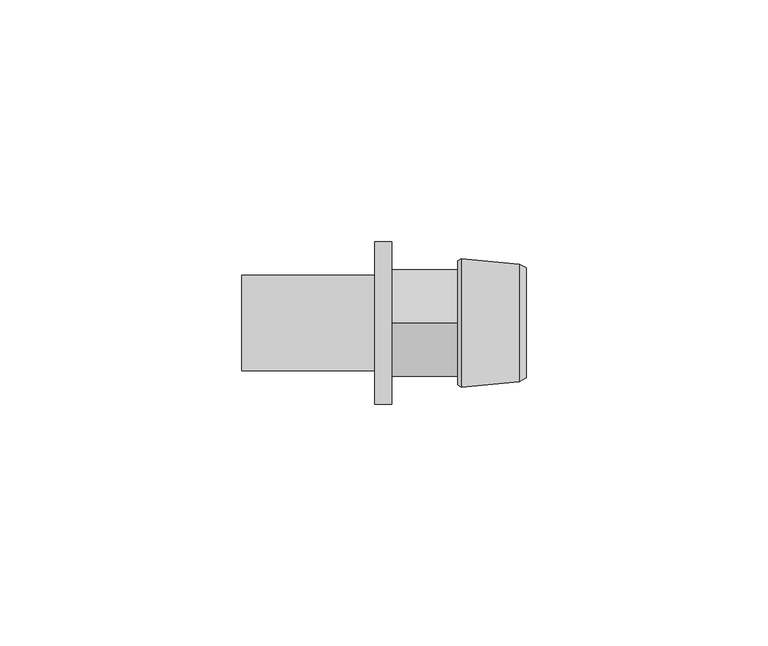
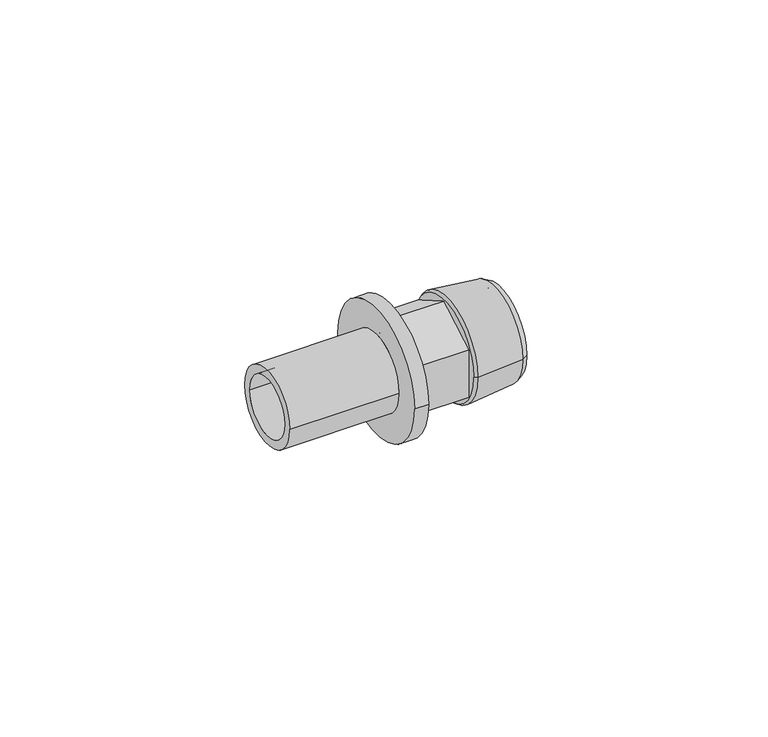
"""IFC4 building model written with IfcOpenShell, lengths in millimetres: pipe fitting geometry, REHAU_RAUTITAN_Adaptor_RX+, with external thread : REHAU_RAUTITAN_Adaptor_RX+, with external thread."""

from ifc_helpers import new_model, si_unit, point, frame, origin, origin_2d, place, context, project, spatial, polyline, circle_curve, trimmed, segment, composite_curve, outline, extrude, source, transform, mapped, element, save
from ifc_brep_helpers import plane_surface, cylinder_surface, revolved_surface, advanced_brep


def pipe_fitting_53153cce(model_context):
    return source(origin(), model_context, "Body", "SolidModel", [
        advanced_brep(
        [(14.7832803, 9.5, 0.0), (14.7832803, -9.5, 0.0), (27.88, -9.5, 0.0), (27.88, 9.5, 0.0), (13.68, 8.3967197, 0.0), (13.68, -8.3967197, 0.0), (14.4206902, 13.29, 0.0), (14.4206902, -13.29, 0.0), (13.68, -12.85, 0.0), (13.68, 12.85, 0.0), (26.3800007, 12.16, 0.0), (26.3800007, -12.16, 0.0), (27.88, 11.375, 0.0), (27.88, -11.375, 0.0)],
        [
            (0, 1, circle_curve(frame((14.7832803, 0.0, 0.0), z_axis=(-1.0, 0.0, 0.0), x_axis=(0.0, -1.0, 0.0)), 9.5)),
            (1, 2),
            (2, 3, circle_curve(frame((27.88, 0.0, 0.0), z_axis=(1.0, 0.0, 0.0), x_axis=(0.0, -1.0, 0.0)), 9.5)),
            (3, 0),
            (4, 5, circle_curve(frame((13.68, 0.0, 0.0), z_axis=(-1.0, 0.0, 0.0), x_axis=(0.0, -1.0, 0.0)), 8.3967197)),
            (5, 1),
            (0, 4),
            (6, 7, circle_curve(frame((14.4206902, 0.0, 0.0), z_axis=(-1.0, 0.0, 0.0), x_axis=(0.0, -1.0, 0.0)), 13.29)),
            (7, 8),
            (8, 9, circle_curve(frame((13.68, 0.0, 0.0), z_axis=(1.0, 0.0, 0.0), x_axis=(0.0, -1.0, 0.0)), 12.85)),
            (9, 6),
            (10, 11, circle_curve(frame((26.3800007, 0.0, 0.0), z_axis=(-1.0, 0.0, 0.0), x_axis=(0.0, -1.0, 0.0)), 12.16)),
            (11, 7),
            (6, 10),
            (12, 13, circle_curve(frame((27.88, 0.0, 0.0), z_axis=(-1.0, 0.0, 0.0), x_axis=(0.0, -1.0, 0.0)), 11.375)),
            (13, 11),
            (10, 12),
            (1, 0, circle_curve(frame((14.7832803, 0.0, 0.0), z_axis=(-1.0, 0.0, 0.0), x_axis=(0.0, 1.0, 0.0)), 9.5)),
            (3, 2, circle_curve(frame((27.88, 0.0, 0.0), z_axis=(1.0, 0.0, 0.0), x_axis=(0.0, 1.0, 0.0)), 9.5)),
            (5, 4, circle_curve(frame((13.68, 0.0, 0.0), z_axis=(-1.0, 0.0, 0.0), x_axis=(0.0, 1.0, 0.0)), 8.3967197)),
            (8, 9, circle_curve(frame((13.68, 0.0, 0.0), z_axis=(-1.0, 0.0, 0.0), x_axis=(0.0, 1.0, 0.0)), 12.85)),
            (7, 6, circle_curve(frame((14.4206902, 0.0, 0.0), z_axis=(-1.0, 0.0, 0.0), x_axis=(0.0, 1.0, 0.0)), 13.29)),
            (11, 10, circle_curve(frame((26.3800007, 0.0, 0.0), z_axis=(-1.0, 0.0, 0.0), x_axis=(0.0, 1.0, 0.0)), 12.16)),
            (13, 12, circle_curve(frame((27.88, 0.0, 0.0), z_axis=(-1.0, 0.0, 0.0), x_axis=(0.0, 1.0, 0.0)), 11.375)),
        ],
        [
            revolved_surface(polyline([(27.88, -9.5, 0.0), (14.7832803, -9.5, 0.0)]), (0.0, 0.0, 0.0), (1.0, 0.0, 0.0)),
            revolved_surface(polyline([(14.7832803, -9.5, 0.0), (13.68, -8.3967197, 0.0)]), (0.0, 0.0, 0.0), (1.0, 0.0, 0.0)),
            revolved_surface(polyline([(13.68, -12.85, 0.0), (14.4206902, -13.29, 0.0)]), (0.0, 0.0, 0.0), (1.0, 0.0, 0.0)),
            revolved_surface(polyline([(14.4206902, -13.29, 0.0), (26.3800007, -12.16, 0.0)]), (0.0, 0.0, 0.0), (1.0, 0.0, 0.0)),
            revolved_surface(polyline([(26.3800007, -12.16, 0.0), (27.88, -11.375, 0.0)]), (0.0, 0.0, 0.0), (1.0, 0.0, 0.0)),
            revolved_surface(polyline([(27.88, 9.5, 0.0), (14.7832803, 9.5, 0.0)]), (0.0, 0.0, 0.0), (1.0, 0.0, 0.0)),
            revolved_surface(polyline([(14.7832803, 9.5, 0.0), (13.68, 8.3967197, 0.0)]), (0.0, 0.0, 0.0), (1.0, 0.0, 0.0)),
            plane_surface(frame((13.68, 0.0, 0.0), z_axis=(-1.0, 0.0, 0.0), x_axis=(0.0, 1.0, 0.0))),
            revolved_surface(polyline([(13.68, 12.85, 0.0), (14.4206902, 13.29, 0.0)]), (0.0, 0.0, 0.0), (1.0, 0.0, 0.0)),
            revolved_surface(polyline([(14.4206902, 13.29, 0.0), (26.3800007, 12.16, 0.0)]), (0.0, 0.0, 0.0), (1.0, 0.0, 0.0)),
            revolved_surface(polyline([(26.3800007, 12.16, 0.0), (27.88, 11.375, 0.0)]), (0.0, 0.0, 0.0), (1.0, 0.0, 0.0)),
            plane_surface(frame((27.88, 0.0, 0.0), z_axis=(1.0, 0.0, 0.0), x_axis=(0.0, 1.0, 0.0))),
        ],
        [
            (0, [[1, 2, 3, 4]]),
            (1, [[5, 6, -1, 7]]),
            (2, [[8, 9, 10, 11]]),
            (3, [[12, 13, -8, 14]]),
            (4, [[15, 16, -12, 17]]),
            (5, [[18, -4, 19, -2]]),
            (6, [[20, -7, -18, -6]]),
            (7, [[21, -10], [-20, -5]]),
            (8, [[22, -11, -21, -9]]),
            (9, [[23, -14, -22, -13]]),
            (10, [[24, -17, -23, -16]]),
            (11, [[-24, -15], [-19, -3]]),
        ],
    ),
        extrude(outline(polyline([(0.0, -12.7017059), (-11.0, -6.350853), (-11.0, 6.350853), (0.0, 12.7017059), (11.0, 6.350853), (11.0, -6.350853), (0.0, -12.7017059)]), holes=[composite_curve([segment(trimmed(circle_curve(origin_2d(), 7.6), [point((-7.6, 0.0))], [point((7.6, 0.0))], True, "CARTESIAN"), True, "CONTINUOUS"), segment(trimmed(circle_curve(origin_2d(), 7.6), [point((7.6, 0.0))], [point((-7.6, 0.0))], True, "CARTESIAN"), True, "CONTINUOUS")], self_intersect=False)]), frame((0.0, 0.0, 0.0), z_axis=(1.0, 0.0, 0.0), x_axis=(0.0, 1.0, 0.0)), (0.0, 0.0, 1.0), 13.68),
        advanced_brep(
        [(-31.03, 7.6, 0.0), (-31.03, -7.6, 0.0), (0.0, -7.6, 0.0), (0.0, 7.6, 0.0), (-3.54, 9.875, 0.0), (-3.54, -9.875, 0.0), (-31.03, -9.875, 0.0), (-31.03, 9.875, 0.0), (0.0, 16.8, 0.0), (0.0, -16.8, 0.0), (-3.54, -16.8, 0.0), (-3.54, 16.8, 0.0)],
        [
            (0, 1, circle_curve(frame((-31.03, 0.0, 0.0), z_axis=(-1.0, 0.0, 0.0), x_axis=(0.0, -1.0, 0.0)), 7.6)),
            (1, 2),
            (2, 3, circle_curve(frame((0.0, 0.0, 0.0), z_axis=(1.0, 0.0, 0.0), x_axis=(0.0, -1.0, 0.0)), 7.6)),
            (3, 0),
            (4, 5, circle_curve(frame((-3.54, 0.0, 0.0), z_axis=(-1.0, 0.0, 0.0), x_axis=(0.0, -1.0, 0.0)), 9.875)),
            (5, 6),
            (6, 7, circle_curve(frame((-31.03, 0.0, 0.0), z_axis=(1.0, 0.0, 0.0), x_axis=(0.0, -1.0, 0.0)), 9.875)),
            (7, 4),
            (8, 9, circle_curve(frame((0.0, 0.0, 0.0), z_axis=(-1.0, 0.0, 0.0), x_axis=(0.0, -1.0, 0.0)), 16.8)),
            (9, 10),
            (10, 11, circle_curve(frame((-3.54, 0.0, 0.0), z_axis=(1.0, 0.0, 0.0), x_axis=(0.0, -1.0, 0.0)), 16.8)),
            (11, 8),
            (8, 9, circle_curve(frame((0.0, 0.0, 0.0), z_axis=(1.0, 0.0, 0.0), x_axis=(0.0, 1.0, 0.0)), 16.8)),
            (2, 3, circle_curve(frame((0.0, 0.0, 0.0), z_axis=(-1.0, 0.0, 0.0), x_axis=(0.0, 1.0, 0.0)), 7.6)),
            (1, 0, circle_curve(frame((-31.03, 0.0, 0.0), z_axis=(-1.0, 0.0, 0.0), x_axis=(0.0, 1.0, 0.0)), 7.6)),
            (6, 7, circle_curve(frame((-31.03, 0.0, 0.0), z_axis=(-1.0, 0.0, 0.0), x_axis=(0.0, 1.0, 0.0)), 9.875)),
            (5, 4, circle_curve(frame((-3.54, 0.0, 0.0), z_axis=(-1.0, 0.0, 0.0), x_axis=(0.0, 1.0, 0.0)), 9.875)),
            (10, 11, circle_curve(frame((-3.54, 0.0, 0.0), z_axis=(-1.0, 0.0, 0.0), x_axis=(0.0, 1.0, 0.0)), 16.8)),
        ],
        [
            revolved_surface(polyline([(0.0, -7.6, 0.0), (-31.03, -7.6, 0.0)]), (0.0, 0.0, 0.0), (1.0, 0.0, 0.0)),
            cylinder_surface(frame((0.0, 0.0, 0.0), z_axis=(1.0, 0.0, 0.0), x_axis=(0.0, -1.0, 0.0)), 9.875),
            cylinder_surface(frame((0.0, 0.0, 0.0), z_axis=(1.0, 0.0, 0.0), x_axis=(0.0, -1.0, 0.0)), 16.8),
            plane_surface(frame((0.0, 0.0, 0.0), z_axis=(1.0, 0.0, 0.0), x_axis=(0.0, 1.0, 0.0))),
            revolved_surface(polyline([(0.0, 7.6, 0.0), (-31.03, 7.6, 0.0)]), (0.0, 0.0, 0.0), (1.0, 0.0, 0.0)),
            plane_surface(frame((-31.03, 0.0, 0.0), z_axis=(-1.0, 0.0, 0.0), x_axis=(0.0, 1.0, 0.0))),
            cylinder_surface(frame((0.0, 0.0, 0.0), z_axis=(1.0, 0.0, 0.0), x_axis=(0.0, 1.0, 0.0)), 9.875),
            plane_surface(frame((-3.54, 0.0, 0.0), z_axis=(-1.0, 0.0, 0.0), x_axis=(0.0, 1.0, 0.0))),
            cylinder_surface(frame((0.0, 0.0, 0.0), z_axis=(1.0, 0.0, 0.0), x_axis=(0.0, 1.0, 0.0)), 16.8),
        ],
        [
            (0, [[1, 2, 3, 4]]),
            (1, [[5, 6, 7, 8]]),
            (2, [[9, 10, 11, 12]]),
            (3, [[13, -9], [14, -3]]),
            (4, [[15, -4, -14, -2]]),
            (5, [[16, -7], [-15, -1]]),
            (6, [[17, -8, -16, -6]]),
            (7, [[18, -11], [-17, -5]]),
            (8, [[-13, -12, -18, -10]]),
        ],
    ),
    ])


if __name__ == "__main__":
    model = new_model("IFC4")
    model_context = context("Model", 3, world=origin())
    ifc_project = project(units=[si_unit("LENGTHUNIT", "METRE", prefix="MILLI")], contexts=[model_context])
    site = spatial("IfcSite", under=ifc_project)
    building = spatial("IfcBuilding", under=site)
    placement = place(None, origin())
    pipe_fitting_shape = pipe_fitting_53153cce(model_context)
    element("IfcPipeFitting", 1, ObjectType="REHAU_RAUTITAN_Adaptor_RX+, with external thread : REHAU_RAUTITAN_Adaptor_RX+, with external thread", at=placement, inside=building, context=model_context, shape_type="MappedRepresentation", body=[
        mapped(pipe_fitting_shape, transform((0.0, 0.0, 0.0), x_axis=(1.0, 0.0, 0.0), y_axis=(0.0, 1.0, 0.0), z_axis=(0.0, 0.0, 1.0))),
    ])
    save(model, "model.ifc")
